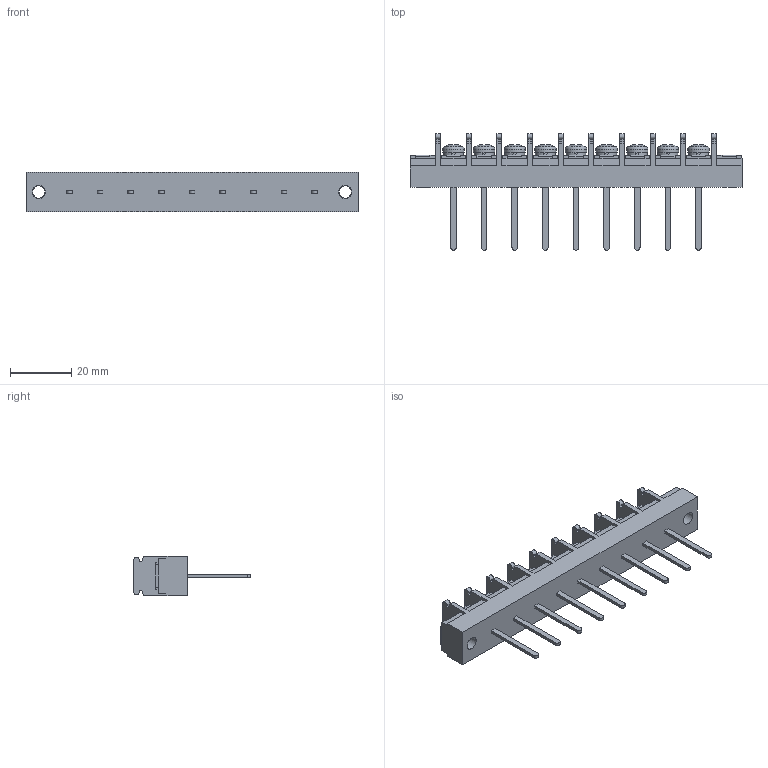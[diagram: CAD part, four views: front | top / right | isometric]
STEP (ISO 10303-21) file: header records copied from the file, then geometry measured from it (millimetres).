
FILE_DESCRIPTION(/* description */ ('Alibre Inc.'),/* implementation_level */ '2;1');
FILE_NAME(/* name */ 'export0',/* time_stamp */ '2015-10-17T19:34:46+09:00',/* author */ (''),/* organization */ (''),/* preprocessor_version */ 'ST-DEVELOPER v14',/* originating_system */ 'Alibre',/* authorisation */ '');
FILE_SCHEMA (('CONFIG_CONTROL_DESIGN'));
Length unit declared in the file: centimetre
Products named in the file (1): ID_1
Bounding box: 108.4 x 38 x 13 mm (x, y, z)
Volume: 16240 mm3; surface area: 10067.4 mm2
Topology: 1 solids, 17 shells, 1007 faces, 2741 edges, 1819 vertices
Faces by surface type: plane 758, bspline 104, cylinder 82, cone 36, torus 18, sphere 9
Full cylindrical faces by diameter (mm): 4 x11, 4.2 x2, 6.5 x9, 7 x9
Entity records: 30722 total; most frequent: CARTESIAN_POINT 6701, ORIENTED_EDGE 5344, DIRECTION 3874, EDGE_CURVE 2672, VECTOR 1976, LINE 1976, VERTEX_POINT 1790, AXIS2_PLACEMENT_3D 1327
